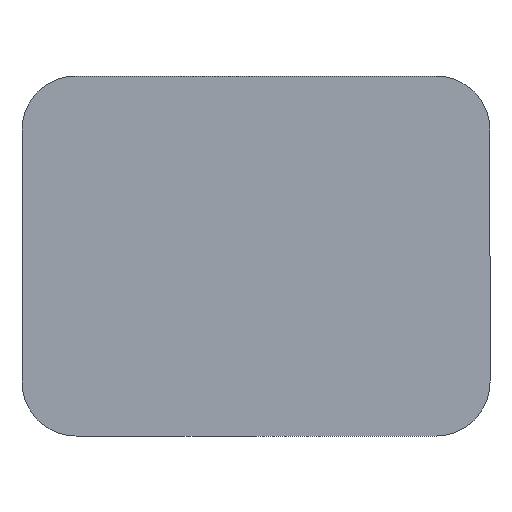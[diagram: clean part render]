
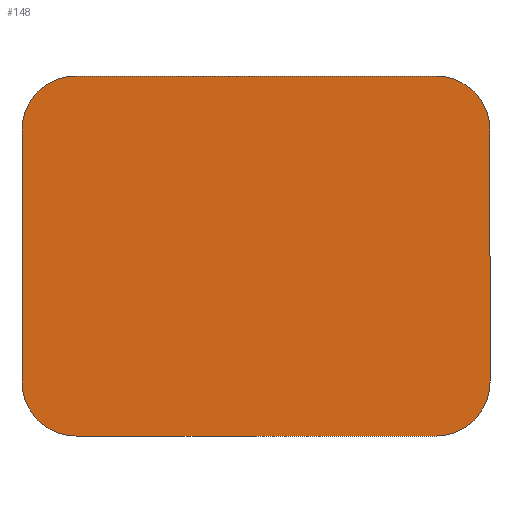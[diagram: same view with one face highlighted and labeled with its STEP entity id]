
A CAD part, front view. The second image highlights one B-rep face of the part: STEP entity #148.
In plain terms, the highlighted planar face has unit normal (0, -1, 0).
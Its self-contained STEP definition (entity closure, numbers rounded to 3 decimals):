
#1 = ORIENTED_EDGE ( 'NONE', *, *, #279, .T. ) ;
#9 = PLANE ( 'NONE',  #737 ) ;
#15 = CARTESIAN_POINT ( 'NONE',  ( -3., -5., 0. ) ) ;
#31 = ORIENTED_EDGE ( 'NONE', *, *, #1011, .T. ) ;
#96 = EDGE_CURVE ( 'NONE', #237, #978, #169, .T. ) ;
#98 = ORIENTED_EDGE ( 'NONE', *, *, #374, .T. ) ;
#104 = ORIENTED_EDGE ( 'NONE', *, *, #357, .T. ) ;
#117 = CARTESIAN_POINT ( 'NONE',  ( 0., -5., -20. ) ) ;
#136 = CARTESIAN_POINT ( 'NONE',  ( 20., -5., -3. ) ) ;
#148 = ADVANCED_FACE ( 'NONE', ( #179 ), #9, .T. ) ;
#155 = VERTEX_POINT ( 'NONE', #807 ) ;
#163 = CARTESIAN_POINT ( 'NONE',  ( 0., -5., 0. ) ) ;
#169 = CIRCLE ( 'NONE', #449, 3. ) ;
#179 = FACE_OUTER_BOUND ( 'NONE', #454, .T. ) ;
#194 = VECTOR ( 'NONE', #255, 1000. ) ;
#199 = CARTESIAN_POINT ( 'NONE',  ( 0., -5., 0. ) ) ;
#219 = EDGE_CURVE ( 'NONE', #155, #290, #740, .T. ) ;
#234 = VERTEX_POINT ( 'NONE', #117 ) ;
#237 = VERTEX_POINT ( 'NONE', #349 ) ;
#247 = AXIS2_PLACEMENT_3D ( 'NONE', #774, #306, #543 ) ;
#255 = DIRECTION ( 'NONE',  ( 0., 0., -1. ) ) ;
#275 = CARTESIAN_POINT ( 'NONE',  ( -3., -5., -17. ) ) ;
#279 = EDGE_CURVE ( 'NONE', #978, #685, #364, .T. ) ;
#290 = VERTEX_POINT ( 'NONE', #275 ) ;
#306 = DIRECTION ( 'NONE',  ( 0., -1., 0. ) ) ;
#322 = ORIENTED_EDGE ( 'NONE', *, *, #219, .T. ) ;
#326 = DIRECTION ( 'NONE',  ( 0., -1., 0. ) ) ;
#335 = DIRECTION ( 'NONE',  ( 0., -1., 0. ) ) ;
#338 = LINE ( 'NONE', #199, #339 ) ;
#339 = VECTOR ( 'NONE', #593, 1000. ) ;
#349 = CARTESIAN_POINT ( 'NONE',  ( 20., -5., -20. ) ) ;
#357 = EDGE_CURVE ( 'NONE', #744, #680, #338, .T. ) ;
#361 = AXIS2_PLACEMENT_3D ( 'NONE', #136, #452, #458 ) ;
#364 = LINE ( 'NONE', #692, #535 ) ;
#374 = EDGE_CURVE ( 'NONE', #234, #237, #515, .T. ) ;
#400 = EDGE_CURVE ( 'NONE', #680, #155, #972, .T. ) ;
#411 = CARTESIAN_POINT ( 'NONE',  ( 20., -5., -17. ) ) ;
#449 = AXIS2_PLACEMENT_3D ( 'NONE', #411, #335, #648 ) ;
#452 = DIRECTION ( 'NONE',  ( 0., -1., 0. ) ) ;
#454 = EDGE_LOOP ( 'NONE', ( #1, #31, #104, #808, #322, #905, #98, #465 ) ) ;
#458 = DIRECTION ( 'NONE',  ( 0., 0., -1. ) ) ;
#465 = ORIENTED_EDGE ( 'NONE', *, *, #96, .T. ) ;
#491 = VECTOR ( 'NONE', #524, 1000. ) ;
#493 = DIRECTION ( 'NONE',  ( 0., 0., -1. ) ) ;
#506 = DIRECTION ( 'NONE',  ( 0., -1., 0. ) ) ;
#515 = LINE ( 'NONE', #761, #491 ) ;
#524 = DIRECTION ( 'NONE',  ( 1., 0., 0. ) ) ;
#535 = VECTOR ( 'NONE', #757, 1000. ) ;
#541 = CARTESIAN_POINT ( 'NONE',  ( 23., -5., -17. ) ) ;
#543 = DIRECTION ( 'NONE',  ( 0., 0., -1. ) ) ;
#567 = CARTESIAN_POINT ( 'NONE',  ( 0., -5., -17. ) ) ;
#587 = CIRCLE ( 'NONE', #738, 3. ) ;
#593 = DIRECTION ( 'NONE',  ( -1., 0., 0. ) ) ;
#648 = DIRECTION ( 'NONE',  ( 0., 0., -1. ) ) ;
#680 = VERTEX_POINT ( 'NONE', #163 ) ;
#685 = VERTEX_POINT ( 'NONE', #790 ) ;
#692 = CARTESIAN_POINT ( 'NONE',  ( 23., -5., 0. ) ) ;
#702 = EDGE_CURVE ( 'NONE', #290, #234, #587, .T. ) ;
#718 = CARTESIAN_POINT ( 'NONE',  ( 20., -5., 0. ) ) ;
#737 = AXIS2_PLACEMENT_3D ( 'NONE', #980, #506, #493 ) ;
#738 = AXIS2_PLACEMENT_3D ( 'NONE', #567, #326, #1032 ) ;
#740 = LINE ( 'NONE', #15, #194 ) ;
#744 = VERTEX_POINT ( 'NONE', #718 ) ;
#757 = DIRECTION ( 'NONE',  ( 0., 0., 1. ) ) ;
#761 = CARTESIAN_POINT ( 'NONE',  ( 0., -5., -20. ) ) ;
#774 = CARTESIAN_POINT ( 'NONE',  ( 0., -5., -3. ) ) ;
#790 = CARTESIAN_POINT ( 'NONE',  ( 23., -5., -3. ) ) ;
#807 = CARTESIAN_POINT ( 'NONE',  ( -3., -5., -3. ) ) ;
#808 = ORIENTED_EDGE ( 'NONE', *, *, #400, .T. ) ;
#821 = CIRCLE ( 'NONE', #361, 3. ) ;
#905 = ORIENTED_EDGE ( 'NONE', *, *, #702, .T. ) ;
#972 = CIRCLE ( 'NONE', #247, 3. ) ;
#978 = VERTEX_POINT ( 'NONE', #541 ) ;
#980 = CARTESIAN_POINT ( 'NONE',  ( 0., -5., 0. ) ) ;
#1011 = EDGE_CURVE ( 'NONE', #685, #744, #821, .T. ) ;
#1032 = DIRECTION ( 'NONE',  ( 0., 0., -1. ) ) ;
